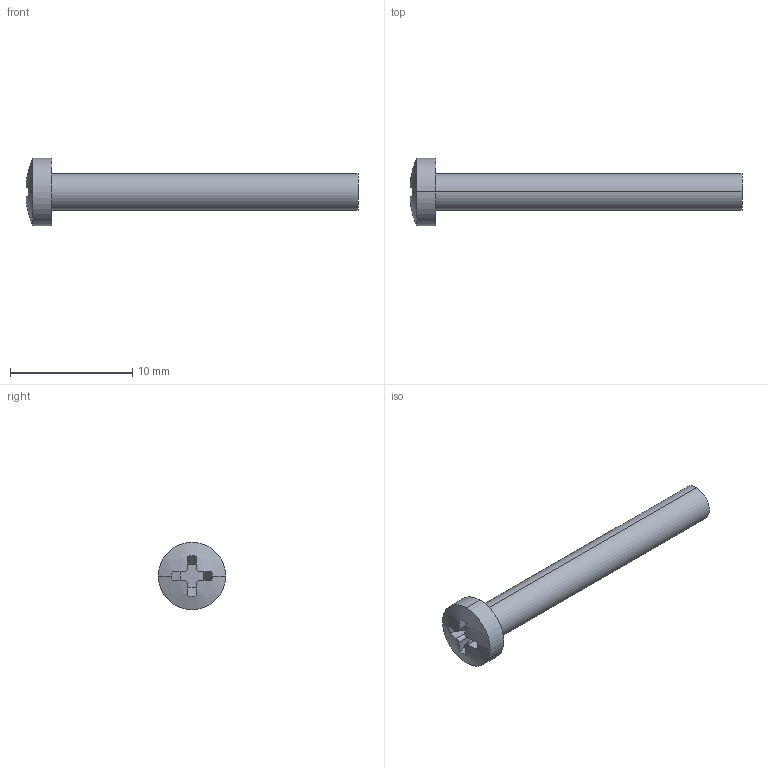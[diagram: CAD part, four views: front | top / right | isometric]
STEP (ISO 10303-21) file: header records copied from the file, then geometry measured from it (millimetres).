
FILE_DESCRIPTION(('Open CASCADE Model'),'2;1');
FILE_NAME('gb-small-pan-head-screw-m3-x-25.step','2026-11-14T14:32:00',( 'Author'),('Open CASCADE'),'Open CASCADE STEP processor 8.0', 'Open CASCADE 8.0','Unknown');
FILE_SCHEMA(('AP242_MANAGED_MODEL_BASED_3D_ENGINEERING_MIM_LF {1 0 10303 442 1 1 4 }' ));
Length unit declared in the file: millimetre
Products named in the file (1): GB Small Pan Head Screw M3 x 25
Bounding box: 27.12 x 5.5 x 5.5 mm (x, y, z)
Volume: 216.8 mm3; surface area: 323.1 mm2
Topology: 1 solids, 1 shells, 25 faces, 66 edges, 44 vertices
Faces by surface type: plane 15, cylinder 8, sphere 2
Entity records: 2208 total; most frequent: CARTESIAN_POINT 924, DIRECTION 236, ORIENTED_EDGE 132, PCURVE 132, DEFINITIONAL_REPRESENTATION 132, LINE 118, VECTOR 118, EDGE_CURVE 66
